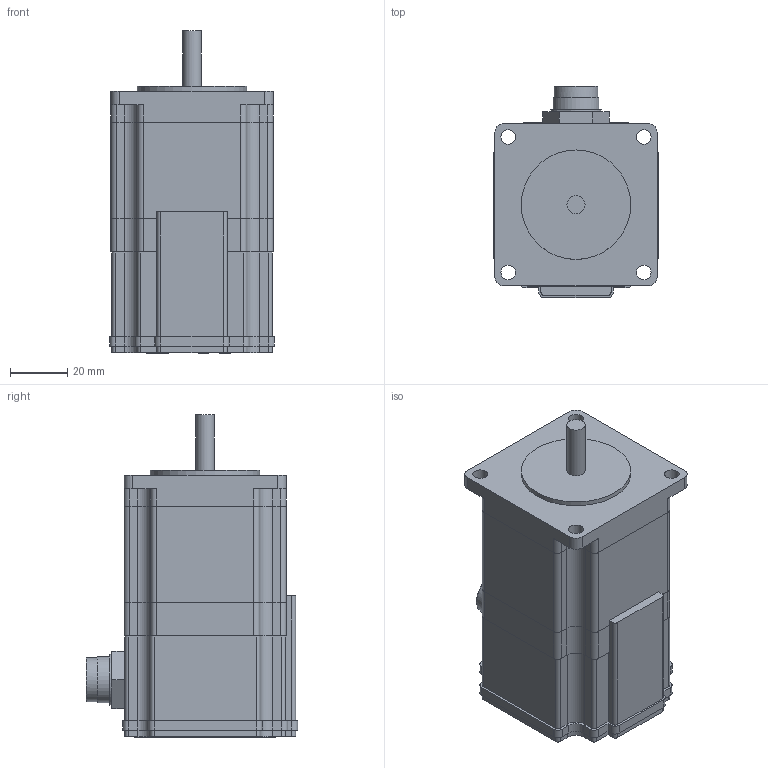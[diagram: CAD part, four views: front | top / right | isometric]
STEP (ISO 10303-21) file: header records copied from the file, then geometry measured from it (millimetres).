
FILE_DESCRIPTION(/* description */ ('Alibre Inc.'),/* implementation_level */ '2;1');
FILE_NAME(/* name */ 'export0',/* time_stamp */ '2017-01-11T11:32:55-08:00',/* author */ (''),/* organization */ (''),/* preprocessor_version */ 'ST-DEVELOPER v14',/* originating_system */ 'Alibre',/* authorisation */ '');
FILE_SCHEMA (('AUTOMOTIVE_DESIGN'));
Length unit declared in the file: centimetre
Bounding box: 57.4 x 73.63 x 112.26 mm (x, y, z)
Volume: 185326.5 mm3; surface area: 62101.7 mm2
Topology: 64 solids, 64 shells, 1329 faces, 3469 edges, 2299 vertices
Faces by surface type: plane 591, bspline 573, cylinder 165
Full cylindrical faces by diameter (mm): 1.216 x14, 2.459 x8, 3 x4, 5.1 x4, 6.35 x3, 14.732 x1, 15.24 x1, 16 x1, 19.99 x1, 38.1 x1
Entity records: 41578 total; most frequent: CARTESIAN_POINT 12945, ORIENTED_EDGE 6918, DIRECTION 3534, EDGE_CURVE 3428, VERTEX_POINT 2296, VECTOR 1950, LINE 1950, EDGE_LOOP 1439
